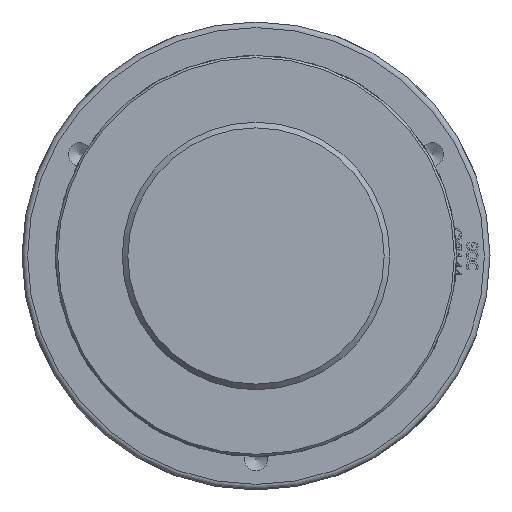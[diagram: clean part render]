
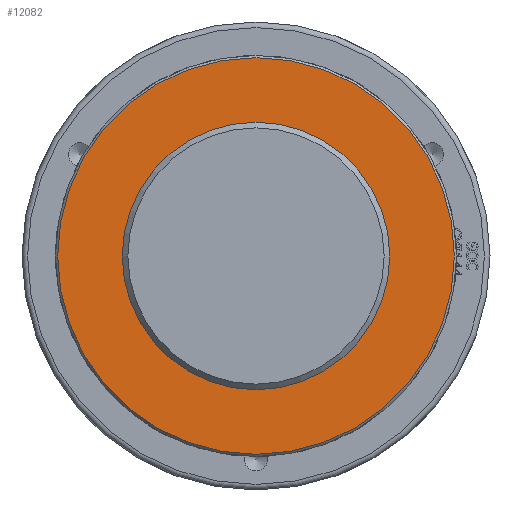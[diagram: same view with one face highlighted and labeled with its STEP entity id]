
A CAD part, front view. The second image highlights one B-rep face of the part: STEP entity #12082.
In plain terms, the highlighted planar face has unit normal (0, -1, 0) as drawn and (0, 1, 0) by its records, which use the part's own axes.
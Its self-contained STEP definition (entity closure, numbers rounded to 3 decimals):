
#90=CIRCLE('',#12757,178.);
#92=CIRCLE('',#12761,115.67);
#171=FACE_BOUND('',#2003,.T.);
#1278=FACE_OUTER_BOUND('',#2002,.T.);
#2002=EDGE_LOOP('',(#9524));
#2003=EDGE_LOOP('',(#9525));
#5444=VERTEX_POINT('',#18242);
#5458=VERTEX_POINT('',#18482);
#6915=EDGE_CURVE('',#5444,#5444,#90,.T.);
#6929=EDGE_CURVE('',#5458,#5458,#92,.T.);
#9524=ORIENTED_EDGE('',*,*,#6915,.F.);
#9525=ORIENTED_EDGE('',*,*,#6929,.T.);
#11577=PLANE('',#12760);
#12082=ADVANCED_FACE('',(#1278,#171),#11577,.T.);
#12757=AXIS2_PLACEMENT_3D('',#18243,#14112,#14113);
#12760=AXIS2_PLACEMENT_3D('',#18481,#14118,#14119);
#12761=AXIS2_PLACEMENT_3D('',#18483,#14120,#14121);
#14112=DIRECTION('center_axis',(0.,-1.,0.));
#14113=DIRECTION('ref_axis',(1.,0.,0.));
#14118=DIRECTION('center_axis',(0.,1.,0.));
#14119=DIRECTION('ref_axis',(0.,0.,1.));
#14120=DIRECTION('center_axis',(0.,-1.,0.));
#14121=DIRECTION('ref_axis',(1.,0.,0.));
#18242=CARTESIAN_POINT('',(-178.,120.,0.));
#18243=CARTESIAN_POINT('Origin',(0.,120.,0.));
#18481=CARTESIAN_POINT('Origin',(0.,120.,0.));
#18482=CARTESIAN_POINT('',(-115.67,120.,0.));
#18483=CARTESIAN_POINT('Origin',(0.,120.,0.));
